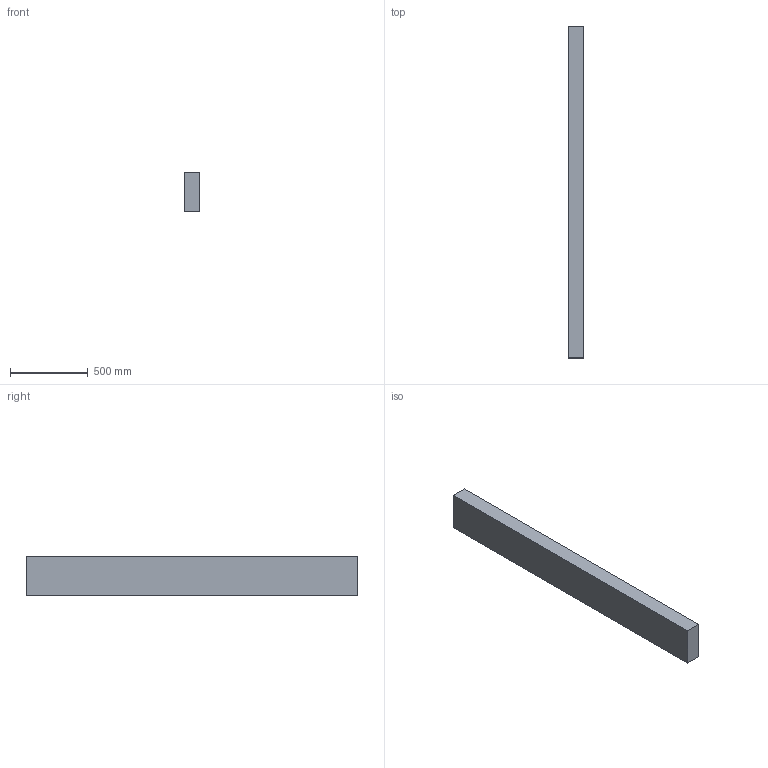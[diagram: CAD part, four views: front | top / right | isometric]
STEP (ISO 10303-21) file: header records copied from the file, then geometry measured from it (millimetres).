
FILE_DESCRIPTION(/* description */ (''),/* implementation_level */ '2;1');
FILE_NAME(/* name */ '4x10x84',/* time_stamp */ '2024-09-20T11:45:48-05:00',/* author */ (''),/* organization */ (''),/* preprocessor_version */ 'ST-DEVELOPER v19.2',/* originating_system */ 'Rhino 8.5',/* authorisation */ '');
FILE_SCHEMA (('CONFIG_CONTROL_DESIGN'));
Length unit declared in the file: inch
Products named in the file (1): Document
Bounding box: 101.6 x 2133.6 x 254 mm (x, y, z)
Volume: 55060535 mm3; surface area: 1569029.1 mm2
Topology: 1 solids, 1 shells, 6 faces, 12 edges, 8 vertices
Faces by surface type: plane 6
Entity records: 226 total; most frequent: CARTESIAN_POINT 40, ORIENTED_EDGE 24, EDGE_CURVE 12, B_SPLINE_CURVE_WITH_KNOTS 12, DIRECTION 10, VERTEX_POINT 8, AXIS2_PLACEMENT_3D 8, ORGANIZATION 7
